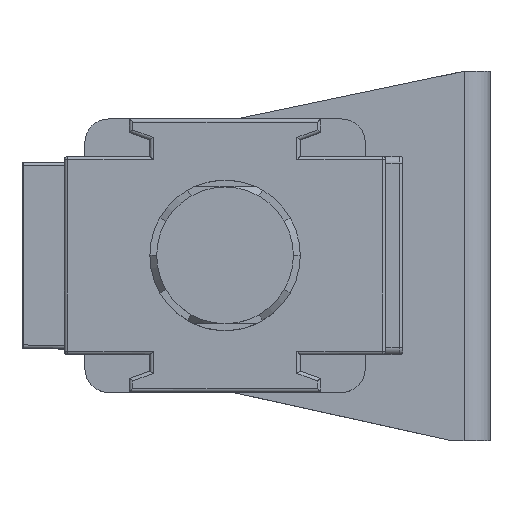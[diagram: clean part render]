
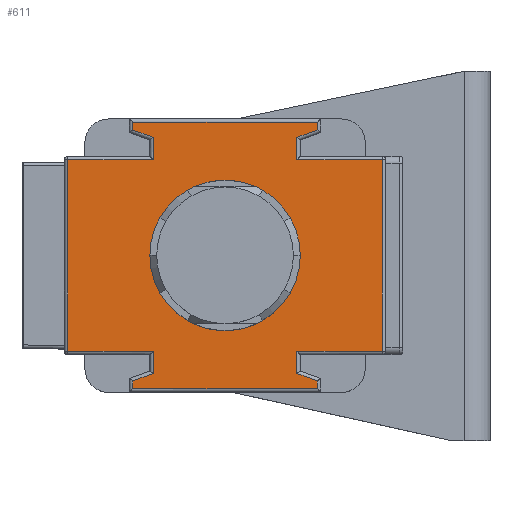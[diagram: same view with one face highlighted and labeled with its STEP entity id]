
A CAD part, top view. The second image highlights one B-rep face of the part: STEP entity #611.
In plain terms, the highlighted planar face has unit normal (0, 0, 1).
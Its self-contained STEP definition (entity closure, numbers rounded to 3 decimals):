
#611=ADVANCED_FACE('',(#1803,#1804),#1805,.T.);
#1803=FACE_BOUND('',#5212,.T.);
#1804=FACE_OUTER_BOUND('',#5213,.T.);
#1805=PLANE('',#5214);
#5212=EDGE_LOOP('',(#9742));
#5213=EDGE_LOOP('',(#9743,#9744,#9745,#9746,#9747,#9748,#9749,#9750,#9751,#9752,#9753,#9754,#9755,#9756,#9757,#9758,#9759,#9760,#9761,#9762));
#5214=AXIS2_PLACEMENT_3D('',#9763,#9764,#9765);
#9742=ORIENTED_EDGE('',*,*,#11534,.T.);
#9743=ORIENTED_EDGE('',*,*,#11262,.F.);
#9744=ORIENTED_EDGE('',*,*,#10695,.F.);
#9745=ORIENTED_EDGE('',*,*,#11383,.F.);
#9746=ORIENTED_EDGE('',*,*,#11330,.F.);
#9747=ORIENTED_EDGE('',*,*,#10862,.F.);
#9748=ORIENTED_EDGE('',*,*,#11277,.F.);
#9749=ORIENTED_EDGE('',*,*,#10848,.F.);
#9750=ORIENTED_EDGE('',*,*,#11412,.F.);
#9751=ORIENTED_EDGE('',*,*,#10732,.F.);
#9752=ORIENTED_EDGE('',*,*,#11227,.F.);
#9753=ORIENTED_EDGE('',*,*,#11535,.F.);
#9754=ORIENTED_EDGE('',*,*,#11536,.F.);
#9755=ORIENTED_EDGE('',*,*,#10281,.F.);
#9756=ORIENTED_EDGE('',*,*,#11425,.F.);
#9757=ORIENTED_EDGE('',*,*,#11522,.F.);
#9758=ORIENTED_EDGE('',*,*,#10765,.F.);
#9759=ORIENTED_EDGE('',*,*,#11537,.F.);
#9760=ORIENTED_EDGE('',*,*,#11302,.F.);
#9761=ORIENTED_EDGE('',*,*,#11189,.F.);
#9762=ORIENTED_EDGE('',*,*,#10879,.F.);
#9763=CARTESIAN_POINT('',(-17.685,48.104,41.5));
#9764=DIRECTION('',(0.,0.,1.0));
#9765=DIRECTION('',(0.0,-1.0,0.));
#10281=EDGE_CURVE('',#11866,#11868,#11869,.T.);
#10695=EDGE_CURVE('',#12616,#12436,#12618,.T.);
#10732=EDGE_CURVE('',#12682,#12683,#12684,.T.);
#10765=EDGE_CURVE('',#12740,#12741,#12742,.T.);
#10848=EDGE_CURVE('',#12881,#12882,#12883,.T.);
#10862=EDGE_CURVE('',#12903,#12905,#12906,.T.);
#10879=EDGE_CURVE('',#12934,#12937,#12938,.T.);
#11189=EDGE_CURVE('',#12937,#13431,#13432,.T.);
#11227=EDGE_CURVE('',#13484,#12682,#13486,.T.);
#11262=EDGE_CURVE('',#12436,#12934,#13533,.T.);
#11277=EDGE_CURVE('',#12882,#12903,#13555,.T.);
#11302=EDGE_CURVE('',#13431,#13587,#13588,.T.);
#11330=EDGE_CURVE('',#12905,#13626,#13627,.T.);
#11383=EDGE_CURVE('',#13626,#12616,#13698,.T.);
#11412=EDGE_CURVE('',#12683,#12881,#13735,.T.);
#11425=EDGE_CURVE('',#13751,#11866,#13753,.T.);
#11522=EDGE_CURVE('',#12741,#13751,#13868,.T.);
#11534=EDGE_CURVE('',#13880,#13880,#13881,.T.);
#11535=EDGE_CURVE('',#11609,#13484,#13882,.T.);
#11536=EDGE_CURVE('',#11868,#11609,#13883,.T.);
#11537=EDGE_CURVE('',#13587,#12740,#13884,.T.);
#11609=VERTEX_POINT('',#14009);
#11866=VERTEX_POINT('',#14497);
#11868=VERTEX_POINT('',#14499);
#11869=LINE('',#14500,#14501);
#12436=VERTEX_POINT('',#15683);
#12616=VERTEX_POINT('',#16048);
#12618=LINE('',#16050,#16051);
#12682=VERTEX_POINT('',#16194);
#12683=VERTEX_POINT('',#16195);
#12684=LINE('',#16196,#16197);
#12740=VERTEX_POINT('',#16500);
#12741=VERTEX_POINT('',#16501);
#12742=LINE('',#16502,#16503);
#12881=VERTEX_POINT('',#16767);
#12882=VERTEX_POINT('',#16768);
#12883=LINE('',#16769,#16770);
#12903=VERTEX_POINT('',#16806);
#12905=VERTEX_POINT('',#16808);
#12906=LINE('',#16809,#16810);
#12934=VERTEX_POINT('',#16890);
#12937=VERTEX_POINT('',#16893);
#12938=LINE('',#16894,#16895);
#13431=VERTEX_POINT('',#18139);
#13432=LINE('',#18140,#18141);
#13484=VERTEX_POINT('',#18242);
#13486=LINE('',#18244,#18245);
#13533=LINE('',#18435,#18436);
#13555=LINE('',#18485,#18486);
#13587=VERTEX_POINT('',#18587);
#13588=LINE('',#18588,#18589);
#13626=VERTEX_POINT('',#18673);
#13627=LINE('',#18674,#18675);
#13698=LINE('',#18825,#18826);
#13735=LINE('',#18922,#18923);
#13751=VERTEX_POINT('',#19030);
#13753=LINE('',#19032,#19033);
#13868=LINE('',#19300,#19301);
#13880=VERTEX_POINT('',#19321);
#13881=CIRCLE('',#19322,11.0);
#13882=LINE('',#19323,#19324);
#13883=LINE('',#19325,#19326);
#13884=LINE('',#19327,#19328);
#14009=CARTESIAN_POINT('',(5.315,62.104,41.5));
#14497=CARTESIAN_POINT('',(-7.185,65.362,41.5));
#14499=CARTESIAN_POINT('',(-7.185,62.104,41.5));
#14500=CARTESIAN_POINT('',(-7.185,55.354,41.5));
#14501=VECTOR('',#19657,1.0);
#15683=CARTESIAN_POINT('',(-40.685,34.104,41.5));
#16048=CARTESIAN_POINT('',(-28.185,34.104,41.5));
#16050=CARTESIAN_POINT('',(-29.435,34.104,41.5));
#16051=VECTOR('',#20312,1.0);
#16194=CARTESIAN_POINT('',(-7.185,34.104,41.5));
#16195=CARTESIAN_POINT('',(-7.185,30.846,41.5));
#16196=CARTESIAN_POINT('',(-7.185,40.854,41.5));
#16197=VECTOR('',#20353,1.0);
#16500=CARTESIAN_POINT('',(-31.185,67.604,41.5));
#16501=CARTESIAN_POINT('',(-4.185,67.604,41.5));
#16502=CARTESIAN_POINT('',(-29.435,67.604,41.5));
#16503=VECTOR('',#20387,1.0);
#16767=CARTESIAN_POINT('',(-4.185,29.754,41.5));
#16768=CARTESIAN_POINT('',(-4.185,28.604,41.5));
#16769=CARTESIAN_POINT('',(-4.185,38.354,41.5));
#16770=VECTOR('',#20519,1.0);
#16806=CARTESIAN_POINT('',(-31.185,28.604,41.5));
#16808=CARTESIAN_POINT('',(-31.185,29.754,41.5));
#16809=CARTESIAN_POINT('',(-31.185,38.354,41.5));
#16810=VECTOR('',#20542,1.0);
#16890=CARTESIAN_POINT('',(-40.685,62.104,41.5));
#16893=CARTESIAN_POINT('',(-28.185,62.104,41.5));
#16894=CARTESIAN_POINT('',(-29.435,62.104,41.5));
#16895=VECTOR('',#20562,1.0);
#18139=CARTESIAN_POINT('',(-28.185,65.362,41.5));
#18140=CARTESIAN_POINT('',(-28.185,55.354,41.5));
#18141=VECTOR('',#21033,1.0);
#18242=CARTESIAN_POINT('',(5.315,34.104,41.5));
#18244=CARTESIAN_POINT('',(-5.935,34.104,41.5));
#18245=VECTOR('',#21107,1.0);
#18435=CARTESIAN_POINT('',(-40.685,38.104,41.5));
#18436=VECTOR('',#21153,1.0);
#18485=CARTESIAN_POINT('',(-5.935,28.604,41.5));
#18486=VECTOR('',#21172,1.0);
#18587=CARTESIAN_POINT('',(-31.185,66.454,41.5));
#18588=CARTESIAN_POINT('',(-20.94,62.725,41.5));
#18589=VECTOR('',#21199,1.0);
#18673=CARTESIAN_POINT('',(-28.185,30.846,41.5));
#18674=CARTESIAN_POINT('',(-20.94,33.483,41.5));
#18675=VECTOR('',#21241,1.0);
#18825=CARTESIAN_POINT('',(-28.185,40.854,41.5));
#18826=VECTOR('',#21329,1.0);
#18922=CARTESIAN_POINT('',(-14.43,33.483,41.5));
#18923=VECTOR('',#21368,1.0);
#19030=CARTESIAN_POINT('',(-4.185,66.454,41.5));
#19032=CARTESIAN_POINT('',(-14.43,62.725,41.5));
#19033=VECTOR('',#21389,1.0);
#19300=CARTESIAN_POINT('',(-4.185,57.854,41.5));
#19301=VECTOR('',#21547,1.0);
#19321=CARTESIAN_POINT('',(-28.685,48.104,41.5));
#19322=AXIS2_PLACEMENT_3D('',#21565,#21566,#21567);
#19323=CARTESIAN_POINT('',(5.315,58.104,41.5));
#19324=VECTOR('',#21568,1.0);
#19325=CARTESIAN_POINT('',(-5.935,62.104,41.5));
#19326=VECTOR('',#21569,1.0);
#19327=CARTESIAN_POINT('',(-31.185,57.854,41.5));
#19328=VECTOR('',#21570,1.0);
#19657=DIRECTION('',(0.,-1.0,0.));
#20312=DIRECTION('',(-1.0,0.,0.));
#20353=DIRECTION('',(0.,-1.0,0.));
#20387=DIRECTION('',(1.0,0.,0.));
#20519=DIRECTION('',(0.,-1.0,0.));
#20542=DIRECTION('',(0.,1.0,0.));
#20562=DIRECTION('',(1.0,0.,0.));
#21033=DIRECTION('',(0.,1.0,0.));
#21107=DIRECTION('',(-1.0,0.,0.));
#21153=DIRECTION('',(0.,1.0,0.));
#21172=DIRECTION('',(-1.0,0.,0.));
#21199=DIRECTION('',(-0.94,0.342,0.));
#21241=DIRECTION('',(0.94,0.342,0.));
#21329=DIRECTION('',(0.,1.0,0.));
#21368=DIRECTION('',(0.94,-0.342,0.));
#21389=DIRECTION('',(-0.94,-0.342,0.));
#21547=DIRECTION('',(0.,-1.0,0.));
#21565=CARTESIAN_POINT('',(-17.685,48.104,41.5));
#21566=DIRECTION('',(0.,0.,-1.0));
#21567=DIRECTION('',(-1.0,0.,0.));
#21568=DIRECTION('',(0.,-1.0,0.));
#21569=DIRECTION('',(1.0,0.,0.));
#21570=DIRECTION('',(0.,1.0,0.));
